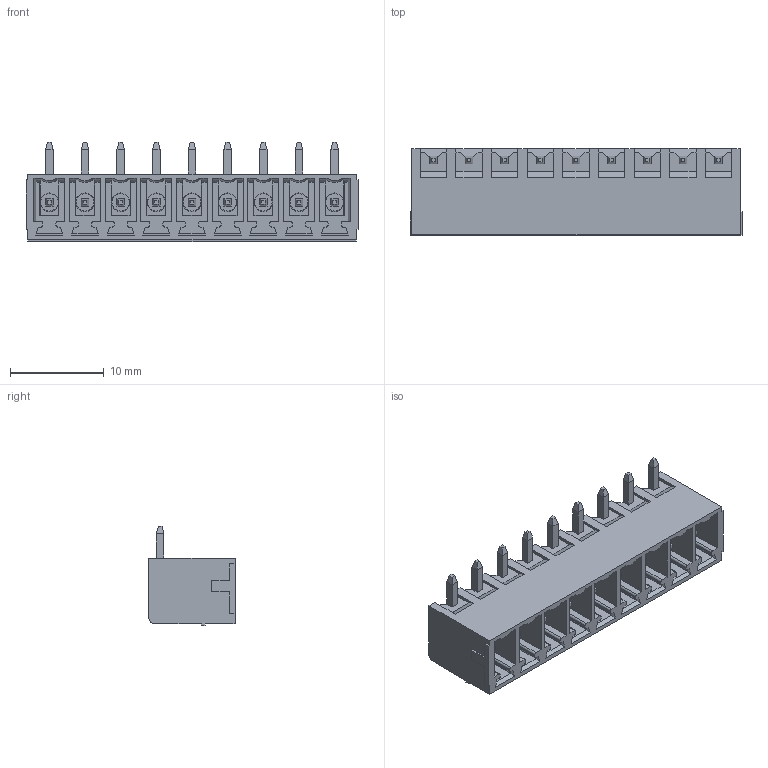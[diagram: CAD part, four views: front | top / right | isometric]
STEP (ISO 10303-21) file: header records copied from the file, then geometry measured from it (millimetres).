
FILE_DESCRIPTION(('FreeCAD Model'),'2;1');
FILE_NAME('Open CASCADE Shape Model','2023-05-24T16:18:55',('Author'),( ''),'Open CASCADE STEP processor 7.6','FreeCAD','Unknown');
FILE_SCHEMA(('AUTOMOTIVE_DESIGN { 1 0 10303 214 1 1 1 1 }'));
Length unit declared in the file: millimetre
Products named in the file (1): BR7MN2-09
Bounding box: 35.48 x 9.2 x 10.6 mm (x, y, z)
Volume: 1082.4 mm3; surface area: 3255.7 mm2
Topology: 1 solids, 10 shells, 783 faces, 2010 edges, 1265 vertices
Faces by surface type: plane 683, cylinder 55, cone 27, sphere 18
Entity records: 50142 total; most frequent: CARTESIAN_POINT 9519, DIRECTION 7609, LINE 5540, VECTOR 5540, ORIENTED_EDGE 3984, PCURVE 3984, DEFINITIONAL_REPRESENTATION 3984, EDGE_CURVE 1992
